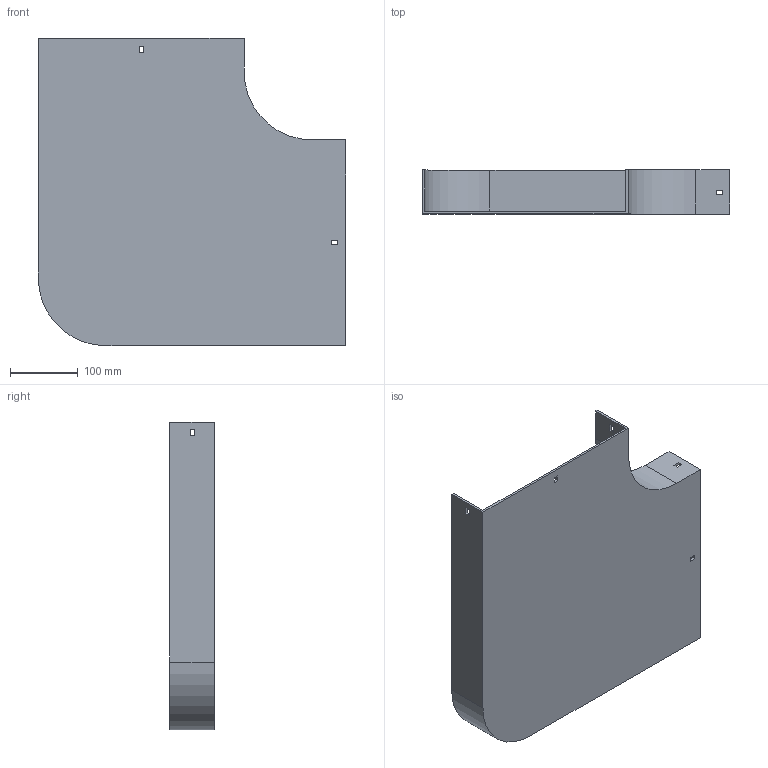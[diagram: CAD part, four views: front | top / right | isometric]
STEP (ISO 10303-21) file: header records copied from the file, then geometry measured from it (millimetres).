
FILE_DESCRIPTION (( 'STEP AP214' ), '1' );
FILE_NAME ('10B1H300.step', '2025-02-21T09:41:11', ( '' ), ( '' ), 'SwSTEP 2.0', 'SolidWorks 2023', '' );
FILE_SCHEMA (( 'AUTOMOTIVE_DESIGN' ));
Length unit declared in the file: millimetre
Products named in the file (1): 10B1H300
Bounding box: 454 x 65.5 x 454 mm (x, y, z)
Volume: 884775.1 mm3; surface area: 513202.3 mm2
Topology: 1 solids, 1 shells, 42 faces, 120 edges, 80 vertices
Faces by surface type: plane 38, cylinder 4
Entity records: 1399 total; most frequent: CARTESIAN_POINT 243, ORIENTED_EDGE 240, DIRECTION 214, EDGE_CURVE 120, LINE 112, VECTOR 112, VERTEX_POINT 80, EDGE_LOOP 54
